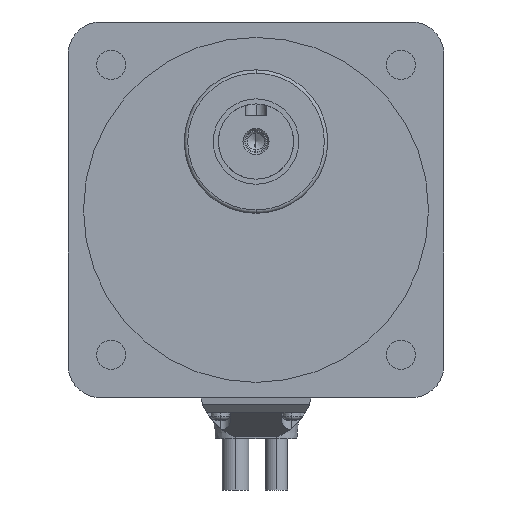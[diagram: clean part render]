
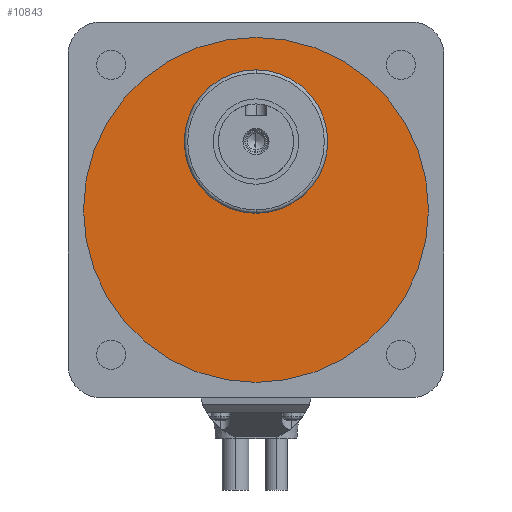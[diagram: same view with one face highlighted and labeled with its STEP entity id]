
A CAD part, front view. The second image highlights one B-rep face of the part: STEP entity #10843.
In plain terms, the highlighted planar face has unit normal (0, -1, 0).
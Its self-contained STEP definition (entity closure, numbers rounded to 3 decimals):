
#10720=CARTESIAN_POINT('POINT144404',(0.,2.,
   -70.5));
#10721=VERTEX_POINT('VERTEX144404',#10720);
#10729=CARTESIAN_POINT('POINT144405',(0.,2.,
   30.5));
#10730=VERTEX_POINT('VERTEX144405',#10729);
#10737=CARTESIAN_POINT('POS245887',(0.,2.,
   -20.));
#10738=DIRECTION('DIR349998',(0.,1.,
   0.));
#10739=DIRECTION('DIR349999',(0.,
   0.,-1.));
#10740=AXIS2_PLACEMENT_3D('AXIS104112',#10737,#10738,#10739);
#10741=CIRCLE('ELLIPSE39202',#10740,50.5);
#10742=EDGE_CURVE('EDGE223323',#10730,#10721,#10741,.T.);
#10753=EDGE_CURVE('EDGE223324',#10721,#10730,#10741,.T.);
#10819=ORIENTED_EDGE('COEDGE446771',*,*,#10753,.F.);
#10820=ORIENTED_EDGE('COEDGE446772',*,*,#10742,.F.);
#10821=EDGE_LOOP('NONE',(#10819,#10820));
#10822=FACE_BOUND('LOOP1',#10821,.T.);
#10823=CARTESIAN_POINT('POINT144410',(0.,2.,
   -21.));
#10824=VERTEX_POINT('VERTEX144410',#10823);
#10825=CARTESIAN_POINT('POINT144411',(0.,2.,
   21.));
#10826=VERTEX_POINT('VERTEX144411',#10825);
#10827=CARTESIAN_POINT('POS245895',(0.,2.,
   0.));
#10828=DIRECTION('DIR350014',(0.,1.,
   0.));
#10829=DIRECTION('DIR350015',(0.,
   0.,-1.));
#10830=AXIS2_PLACEMENT_3D('AXIS104120',#10827,#10828,#10829);
#10831=CIRCLE('ELLIPSE39207',#10830,21.);
#10832=EDGE_CURVE('EDGE223330',#10824,#10826,#10831,.T.);
#10833=ORIENTED_EDGE('COEDGE446773',*,*,#10832,.T.);
#10834=EDGE_CURVE('EDGE223331',#10826,#10824,#10831,.T.);
#10835=ORIENTED_EDGE('COEDGE446774',*,*,#10834,.T.);
#10836=EDGE_LOOP('NONE',(#10833,#10835));
#10837=FACE_BOUND('LOOP1',#10836,.T.);
#10838=CARTESIAN_POINT('POS245896',(0.,2.,
   -20.));
#10839=DIRECTION('DIR350016',(0.,1.,
   0.));
#10840=DIRECTION('DIR350017',(1.,0.,
   0.));
#10841=AXIS2_PLACEMENT_3D('AXIS104121',#10838,#10839,#10840);
#10842=PLANE('PLANE48902',#10841);
#10843=ADVANCED_FACE('FACE86763',(#10822,#10837),#10842,.F.);
